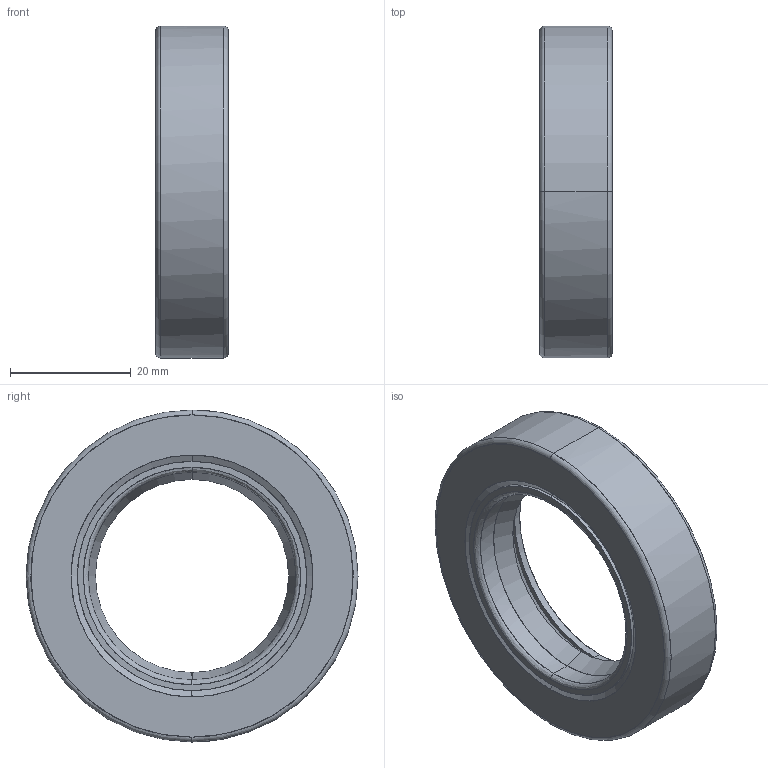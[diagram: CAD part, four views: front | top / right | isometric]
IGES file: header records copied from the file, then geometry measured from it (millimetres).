
Start section: START RECORD GO HERE.
Global section: file name: JointSKFCRSH13.igs; native system: IBM CATIA IGES - CATIA Version 5 Release 18 ; preprocessor: CATIA Version 5 Release 18 ; author: Propriétaire; organization: FUJITSU-79916BB; date: 20090111.191250; units: millimetre
Bounding box: 12 x 55 x 55 mm (x, y, z)
Surface area: 10206.6 mm2 (no closed solid volume)
Topology: 0 solids, 0 shells, 41 faces, 164 edges, 164 vertices
Faces by surface type: revolution 34, plane 7
